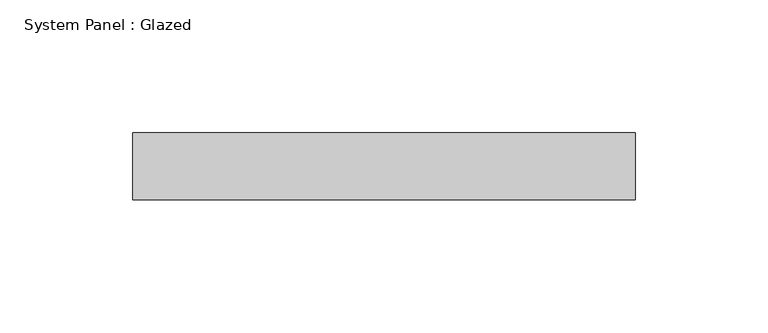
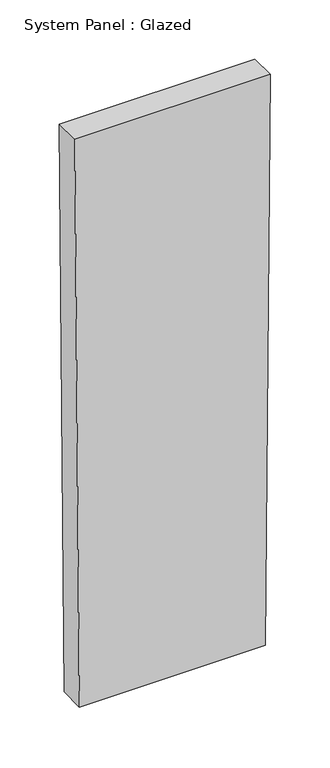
"""IFC4 building model written with IfcOpenShell, lengths in millimetres: plate geometry, System Panel : Glazed."""

from ifc_helpers import new_model, si_unit, frame, origin, place, context, project, spatial, polyline, outline, extrude, source, transform, mapped, element, save


def system_panel_glazed_c8f2843d(model_context):
    return source(origin(), model_context, "Body", "SweptSolid", [
        extrude(outline(polyline([(0.0, -90.408297), (0.0, 90.408297), (584.1823883, 94.8489989), (584.1823883, -94.8489989), (0.0, -90.408297)])), frame((0.0, -44.45, 0.0), z_axis=(0.0, 1.0, 0.0), x_axis=(0.0, 0.0, 1.0)), (0.0, 0.0, 1.0), 25.4),
    ])


if __name__ == "__main__":
    model = new_model("IFC4")
    model_context = context("Model", 3, world=origin())
    ifc_project = project(units=[si_unit("LENGTHUNIT", "METRE", prefix="MILLI")], contexts=[model_context])
    site = spatial("IfcSite", under=ifc_project)
    building = spatial("IfcBuilding", under=site)
    placement = place(None, origin())
    system_panel_glazed_shape = system_panel_glazed_c8f2843d(model_context)
    element("IfcPlate", 1, ObjectType="System Panel : Glazed", at=placement, inside=building, context=model_context, shape_type="MappedRepresentation", body=[
        mapped(system_panel_glazed_shape, transform((0.0, 0.0, 0.0), x_axis=(1.0, 0.0, 0.0), y_axis=(0.0, 1.0, 0.0), z_axis=(0.0, 0.0, 1.0))),
    ])
    save(model, "model.ifc")
